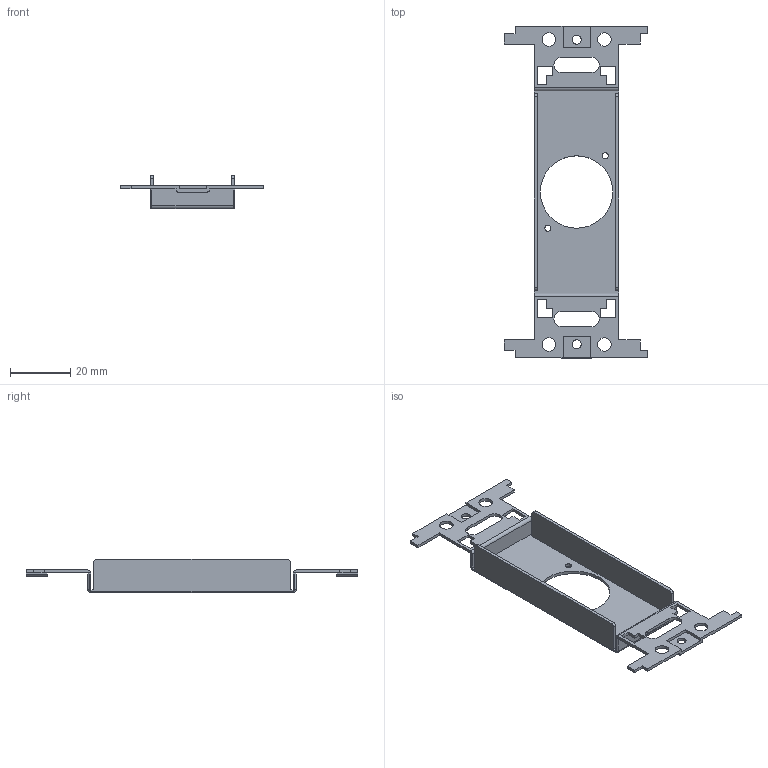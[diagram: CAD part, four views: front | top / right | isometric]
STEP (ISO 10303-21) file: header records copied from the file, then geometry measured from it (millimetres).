
FILE_DESCRIPTION(('FreeCAD Model'),'2;1');
FILE_NAME('Open CASCADE Shape Model','2026-06-22T11:01:21',(''),(''), 'Open CASCADE STEP processor 7.8','FreeCAD','Unknown');
FILE_SCHEMA(('AUTOMOTIVE_DESIGN { 1 0 10303 214 1 1 1 1 }'));
Length unit declared in the file: millimetre
Products named in the file (1): P-200790
Bounding box: 47.6 x 110 x 11 mm (x, y, z)
Volume: 4168.4 mm3; surface area: 9099.8 mm2
Topology: 1 solids, 1 shells, 119 faces, 345 edges, 226 vertices
Faces by surface type: plane 84, cylinder 31, torus 4
Full cylindrical faces by diameter (mm): 2 x2, 3 x2, 4.5 x4, 24 x1
Entity records: 3978 total; most frequent: ORIENTED_EDGE 694, CARTESIAN_POINT 692, DIRECTION 650, EDGE_CURVE 345, LINE 278, VECTOR 278, VERTEX_POINT 226, AXIS2_PLACEMENT_3D 186
